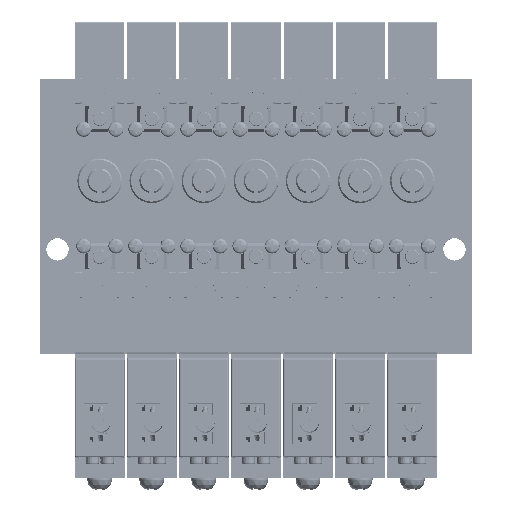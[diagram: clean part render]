
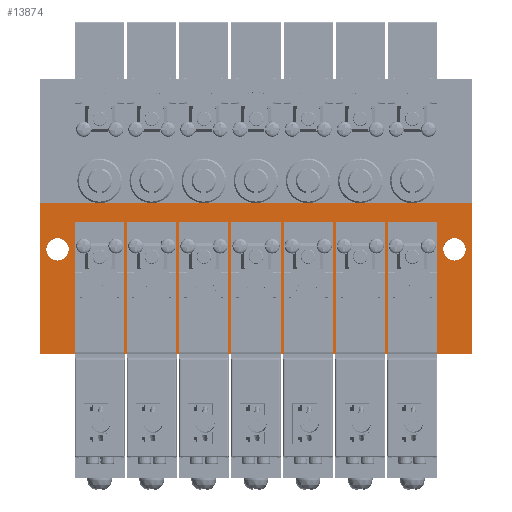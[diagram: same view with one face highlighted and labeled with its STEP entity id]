
A CAD part, top view. The second image highlights one B-rep face of the part: STEP entity #13874.
In plain terms, the highlighted planar face has unit normal (0, 0, 1).
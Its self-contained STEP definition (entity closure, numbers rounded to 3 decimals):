
#13874=ADVANCED_FACE('',(#23489,#23490,#23491),#23492,.F.);
#23489=FACE_BOUND('',#42993,.T.);
#23490=FACE_BOUND('',#42994,.T.);
#23491=FACE_OUTER_BOUND('',#42995,.T.);
#23492=PLANE('',#42996);
#42993=EDGE_LOOP('',(#65610));
#42994=EDGE_LOOP('',(#65611));
#42995=EDGE_LOOP('',(#65612,#65613,#65614,#65615));
#42996=AXIS2_PLACEMENT_3D('',#65616,#65617,#65618);
#65610=ORIENTED_EDGE('',*,*,#141666,.F.);
#65611=ORIENTED_EDGE('',*,*,#141667,.F.);
#65612=ORIENTED_EDGE('',*,*,#141668,.F.);
#65613=ORIENTED_EDGE('',*,*,#141669,.F.);
#65614=ORIENTED_EDGE('',*,*,#141670,.T.);
#65615=ORIENTED_EDGE('',*,*,#141664,.T.);
#65616=CARTESIAN_POINT('',(-87.0,30.3,14.8));
#65617=DIRECTION('',(0.0,0.0,-1.0));
#65618=DIRECTION('',(1.0,0.0,0.0));
#141664=EDGE_CURVE('',#166301,#166299,#166302,.T.);
#141666=EDGE_CURVE('',#166304,#166304,#166305,.T.);
#141667=EDGE_CURVE('',#166306,#166306,#166307,.T.);
#141668=EDGE_CURVE('',#166308,#166299,#166309,.T.);
#141669=EDGE_CURVE('',#166310,#166308,#166311,.T.);
#141670=EDGE_CURVE('',#166310,#166301,#166312,.T.);
#166299=VERTEX_POINT('',#207721);
#166301=VERTEX_POINT('',#207724);
#166302=LINE('',#207725,#207726);
#166304=VERTEX_POINT('',#207729);
#166305=CIRCLE('',#207730,2.25);
#166306=VERTEX_POINT('',#207731);
#166307=CIRCLE('',#207732,2.25);
#166308=VERTEX_POINT('',#207733);
#166309=LINE('',#207734,#207735);
#166310=VERTEX_POINT('',#207736);
#166311=LINE('',#207737,#207738);
#166312=LINE('',#207739,#207740);
#207721=CARTESIAN_POINT('',(0.0,0.,14.8));
#207724=CARTESIAN_POINT('',(-87.0,0.,14.8));
#207725=CARTESIAN_POINT('',(-87.0,0.,14.8));
#207726=VECTOR('',#272477,1.0);
#207729=CARTESIAN_POINT('',(-1.25,21.0,14.8));
#207730=AXIS2_PLACEMENT_3D('',#272479,#272480,#272481);
#207731=CARTESIAN_POINT('',(-81.25,21.0,14.8));
#207732=AXIS2_PLACEMENT_3D('',#272482,#272483,#272484);
#207733=CARTESIAN_POINT('',(0.0,30.3,14.8));
#207734=CARTESIAN_POINT('',(0.0,30.3,14.8));
#207735=VECTOR('',#272485,1.0);
#207736=CARTESIAN_POINT('',(-87.0,30.3,14.8));
#207737=CARTESIAN_POINT('',(-87.0,30.3,14.8));
#207738=VECTOR('',#272486,1.0);
#207739=CARTESIAN_POINT('',(-87.0,30.3,14.8));
#207740=VECTOR('',#272487,1.0);
#272477=DIRECTION('',(1.0,0.0,0.0));
#272479=CARTESIAN_POINT('',(-3.5,21.0,14.8));
#272480=DIRECTION('',(0.0,0.0,1.0));
#272481=DIRECTION('',(1.0,0.0,0.0));
#272482=CARTESIAN_POINT('',(-83.5,21.0,14.8));
#272483=DIRECTION('',(0.0,0.0,1.0));
#272484=DIRECTION('',(1.0,0.0,0.0));
#272485=DIRECTION('',(0.0,-1.0,0.0));
#272486=DIRECTION('',(1.0,0.0,0.0));
#272487=DIRECTION('',(0.0,-1.0,0.0));
